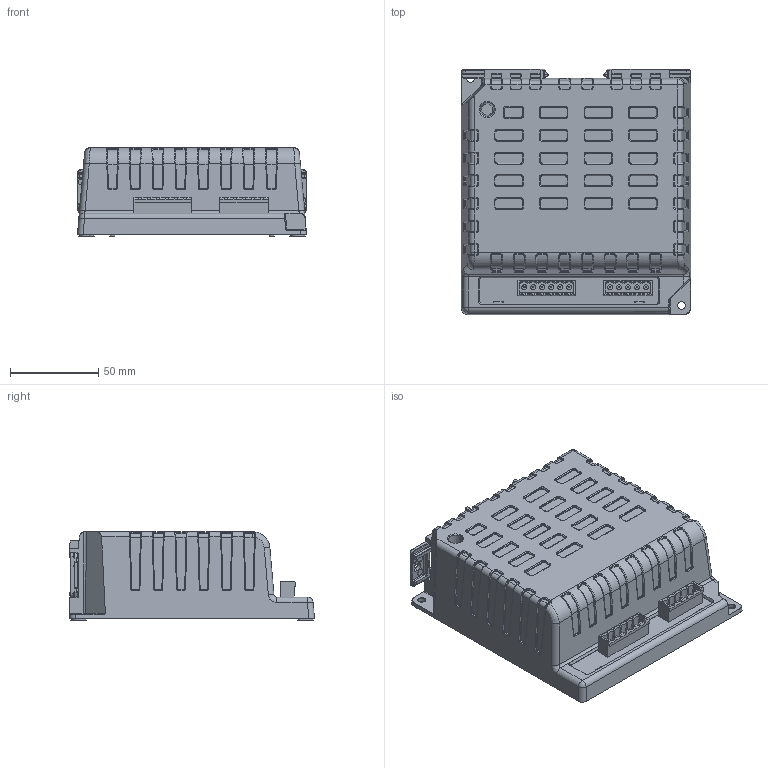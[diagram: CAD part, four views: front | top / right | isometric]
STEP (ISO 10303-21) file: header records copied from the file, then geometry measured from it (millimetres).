
FILE_DESCRIPTION (( 'STEP AP214' ), '1' );
FILE_NAME ('DSE_BCxx05_Asm.STEP', '2022-09-15T16:07:50', ( '' ), ( '' ), 'SwSTEP 2.0', 'SolidWorks 2020', '' );
FILE_SCHEMA (( 'AUTOMOTIVE_DESIGN' ));
Length unit declared in the file: millimetre
Products named in the file (1): DSE_BCxx05_Asm
Bounding box: 129.6 x 138.6 x 50 mm (x, y, z)
Volume: 699741 mm3; surface area: 70766.4 mm2
Topology: 3 solids, 3 shells, 2916 faces, 7354 edges, 4555 vertices
Faces by surface type: plane 1120, cylinder 1022, bspline 661, cone 83, sphere 22, torus 8
Entity records: 106745 total; most frequent: CARTESIAN_POINT 44162, ORIENTED_EDGE 14664, DIRECTION 10923, EDGE_CURVE 7332, VERTEX_POINT 4555, LINE 3821, VECTOR 3821, AXIS2_PLACEMENT_3D 3551
